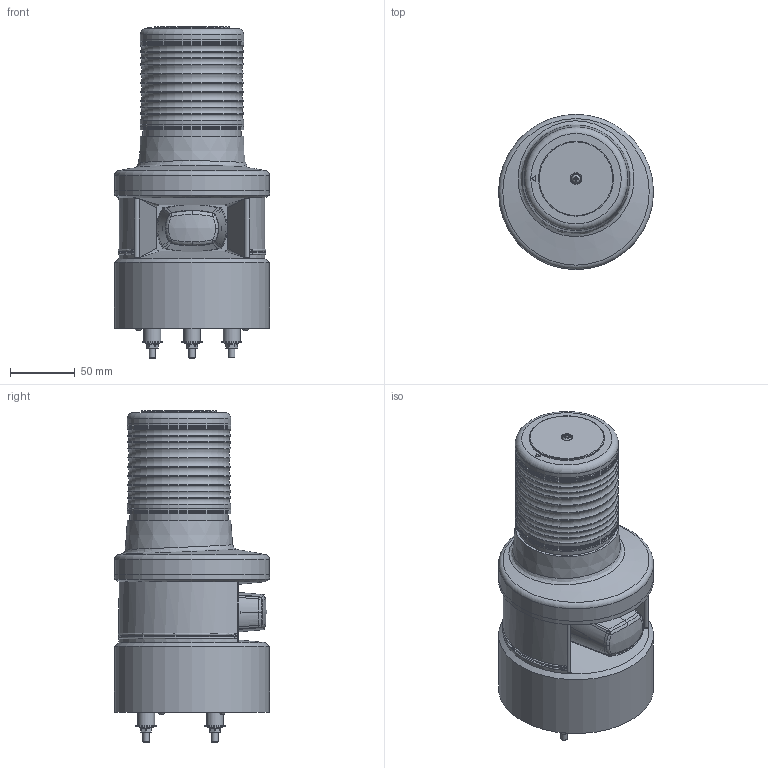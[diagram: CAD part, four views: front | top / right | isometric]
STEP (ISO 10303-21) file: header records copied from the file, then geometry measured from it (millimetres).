
FILE_DESCRIPTION(('STEP AP214'), '1');
FILE_NAME('TLF100B-R', '', ('UNSPECIFIED'), ('UNSPECIFIED'), 'C3D Converter', 'C3D Toolkit', '');
FILE_SCHEMA(('AUTOMOTIVE_DESIGN { 1 0 10303 214 3 1 1}'));
Length unit declared in the file: millimetre
Assembly tree (27 placements, depth 2):
  (unnamed)
    (unnamed)
    (unnamed)
    (unnamed)
    (unnamed)
    (unnamed)
    (unnamed)  x3
    (unnamed)  x3
    (unnamed)  x3
    (unnamed)  x3
    (unnamed)  x3
    (unnamed)  x2
    (unnamed)  x4
    (unnamed)
Bounding box: 120 x 120 x 256.95 mm (x, y, z)
Volume: 1424355.2 mm3; surface area: 188877 mm2
Topology: 27 solids, 29 shells, 597 faces, 1399 edges, 876 vertices
Faces by surface type: plane 279, cylinder 118, cone 86, bspline 72, torus 33, sphere 9
Full cylindrical faces by diameter (mm): 2.5 x2, 3 x6, 3.3 x2, 4 x1, 4.5 x2, 4.917 x6, 5 x16, 5.5 x4, 7 x1, 8 x1, 8.9 x3, 11 x3, 12 x1, 13.1 x3, 15.7 x3, 58 x1, 72 x1, 76 x2, 80 x9, 120 x3
Entity records: 22463 total; most frequent: CARTESIAN_POINT 11772, ORIENTED_EDGE 1390, DIRECTION 1328, EDGE_CURVE 703, AXIS2_PLACEMENT_3D 564, VERTEX_POINT 493, EDGE_LOOP 479, ADVANCED_FACE 351
